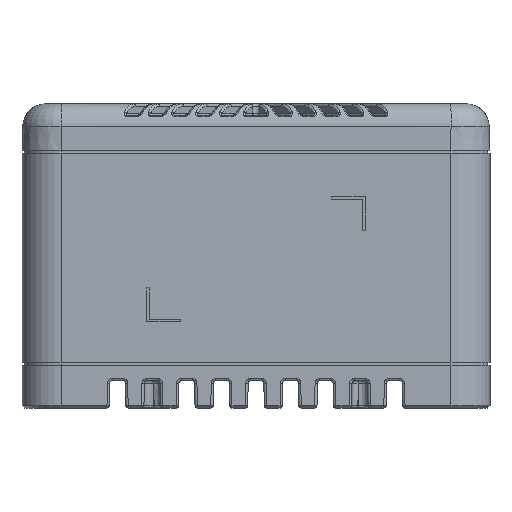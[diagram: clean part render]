
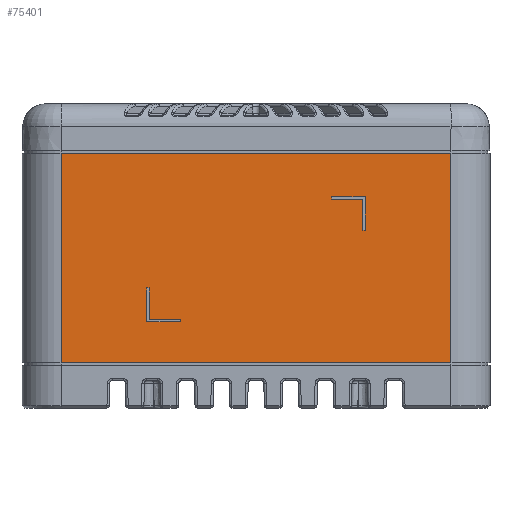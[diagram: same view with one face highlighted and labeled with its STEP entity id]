
A CAD part, left-side view. The second image highlights one B-rep face of the part: STEP entity #75401.
In plain terms, the highlighted planar face has unit normal (-1, 0, 0).
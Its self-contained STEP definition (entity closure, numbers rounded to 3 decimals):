
#811 = VERTEX_POINT ( 'NONE', #42274 ) ;
#1516 = LINE ( 'NONE', #84538, #74324 ) ;
#2090 = VECTOR ( 'NONE', #84399, 1000. ) ;
#3626 = CARTESIAN_POINT ( 'NONE',  ( -54., 25., 27.5 ) ) ;
#4190 = EDGE_CURVE ( 'NONE', #92370, #52066, #96544, .T. ) ;
#5146 = ORIENTED_EDGE ( 'NONE', *, *, #46457, .F. ) ;
#5613 = EDGE_CURVE ( 'NONE', #16453, #23665, #84009, .T. ) ;
#7245 = EDGE_CURVE ( 'NONE', #58472, #72931, #33263, .T. ) ;
#8660 = LINE ( 'NONE', #38768, #11218 ) ;
#11218 = VECTOR ( 'NONE', #90223, 1000. ) ;
#11325 = FACE_BOUND ( 'NONE', #15268, .T. ) ;
#11660 = VECTOR ( 'NONE', #25333, 1000. ) ;
#12910 = ORIENTED_EDGE ( 'NONE', *, *, #62445, .F. ) ;
#13155 = EDGE_CURVE ( 'NONE', #45273, #84296, #65281, .T. ) ;
#14381 = CARTESIAN_POINT ( 'NONE',  ( -54., 25., 5.6 ) ) ;
#15148 = ORIENTED_EDGE ( 'NONE', *, *, #15595, .F. ) ;
#15229 = ORIENTED_EDGE ( 'NONE', *, *, #38802, .F. ) ;
#15268 = EDGE_LOOP ( 'NONE', ( #77667, #68437, #81362, #44696, #73542, #12910 ) ) ;
#15384 = VERTEX_POINT ( 'NONE', #84614 ) ;
#15427 = VECTOR ( 'NONE', #32511, 1000. ) ;
#15595 = EDGE_CURVE ( 'NONE', #15384, #77270, #73235, .T. ) ;
#15705 = LINE ( 'NONE', #56544, #59917 ) ;
#15827 = CARTESIAN_POINT ( 'NONE',  ( -54., 25., 5.9 ) ) ;
#16453 = VERTEX_POINT ( 'NONE', #96687 ) ;
#18786 = ORIENTED_EDGE ( 'NONE', *, *, #62101, .F. ) ;
#19007 = DIRECTION ( 'NONE',  ( 0., 0., 1. ) ) ;
#20423 = CARTESIAN_POINT ( 'NONE',  ( -54., 25., 27.2 ) ) ;
#23665 = VERTEX_POINT ( 'NONE', #44185 ) ;
#24470 = VECTOR ( 'NONE', #26408, 1000. ) ;
#25333 = DIRECTION ( 'NONE',  ( 0., 0., -1. ) ) ;
#25987 = EDGE_CURVE ( 'NONE', #30957, #15384, #45574, .T. ) ;
#26319 = LINE ( 'NONE', #47083, #11660 ) ;
#26408 = DIRECTION ( 'NONE',  ( 0., 0., -1. ) ) ;
#26991 = EDGE_CURVE ( 'NONE', #35231, #30957, #1516, .T. ) ;
#27464 = LINE ( 'NONE', #49710, #15427 ) ;
#27846 = DIRECTION ( 'NONE',  ( 0., -1., 0. ) ) ;
#30558 = CARTESIAN_POINT ( 'NONE',  ( -54., -25., 27.2 ) ) ;
#30957 = VERTEX_POINT ( 'NONE', #47554 ) ;
#30977 = VECTOR ( 'NONE', #89179, 1000. ) ;
#32511 = DIRECTION ( 'NONE',  ( 0., -1., 0. ) ) ;
#33263 = LINE ( 'NONE', #86194, #89832 ) ;
#33401 = CARTESIAN_POINT ( 'NONE',  ( -54., 9.7, 27.5 ) ) ;
#34001 = FACE_BOUND ( 'NONE', #54544, .T. ) ;
#34482 = CARTESIAN_POINT ( 'NONE',  ( -54., -14., 21.6 ) ) ;
#35231 = VERTEX_POINT ( 'NONE', #63240 ) ;
#38768 = CARTESIAN_POINT ( 'NONE',  ( -54., 25., 21.3 ) ) ;
#38802 = EDGE_CURVE ( 'NONE', #39418, #45273, #27464, .T. ) ;
#39094 = CARTESIAN_POINT ( 'NONE',  ( -54., 14., 27.5 ) ) ;
#39418 = VERTEX_POINT ( 'NONE', #20423 ) ;
#42274 = CARTESIAN_POINT ( 'NONE',  ( -54., -13.7, 21.3 ) ) ;
#42385 = AXIS2_PLACEMENT_3D ( 'NONE', #71650, #55306, #85438 ) ;
#44108 = CARTESIAN_POINT ( 'NONE',  ( -54., 25., 17.3 ) ) ;
#44185 = CARTESIAN_POINT ( 'NONE',  ( -54., 13.7, 5.9 ) ) ;
#44547 = VECTOR ( 'NONE', #49997, 1000. ) ;
#44696 = ORIENTED_EDGE ( 'NONE', *, *, #55761, .F. ) ;
#45273 = VERTEX_POINT ( 'NONE', #30558 ) ;
#45574 = LINE ( 'NONE', #39094, #66267 ) ;
#46457 = EDGE_CURVE ( 'NONE', #84296, #74370, #83899, .T. ) ;
#46696 = CARTESIAN_POINT ( 'NONE',  ( -54., -13.7, 17.3 ) ) ;
#47083 = CARTESIAN_POINT ( 'NONE',  ( -54., -9.7, 27.5 ) ) ;
#47554 = CARTESIAN_POINT ( 'NONE',  ( -54., 14., 9.9 ) ) ;
#47611 = DIRECTION ( 'NONE',  ( 0., 0., -1. ) ) ;
#47983 = EDGE_CURVE ( 'NONE', #23665, #35231, #80782, .T. ) ;
#48386 = FACE_OUTER_BOUND ( 'NONE', #89424, .T. ) ;
#49009 = CARTESIAN_POINT ( 'NONE',  ( -54., -25., 27.5 ) ) ;
#49710 = CARTESIAN_POINT ( 'NONE',  ( -54., 25., 27.2 ) ) ;
#49997 = DIRECTION ( 'NONE',  ( 0., 0., -1. ) ) ;
#52032 = ORIENTED_EDGE ( 'NONE', *, *, #71356, .T. ) ;
#52066 = VERTEX_POINT ( 'NONE', #85976 ) ;
#53908 = CARTESIAN_POINT ( 'NONE',  ( -54., 13.7, 27.5 ) ) ;
#54544 = EDGE_LOOP ( 'NONE', ( #70185, #93870, #18786, #15148, #73580, #65372 ) ) ;
#54720 = LINE ( 'NONE', #33401, #62301 ) ;
#55038 = LINE ( 'NONE', #3626, #64007 ) ;
#55059 = DIRECTION ( 'NONE',  ( 0., 1., 0. ) ) ;
#55306 = DIRECTION ( 'NONE',  ( 1., 0., 0. ) ) ;
#55761 = EDGE_CURVE ( 'NONE', #52066, #58472, #15705, .T. ) ;
#56544 = CARTESIAN_POINT ( 'NONE',  ( -54., -14., 27.5 ) ) ;
#58472 = VERTEX_POINT ( 'NONE', #34482 ) ;
#59917 = VECTOR ( 'NONE', #19007, 1000. ) ;
#60611 = CARTESIAN_POINT ( 'NONE',  ( -54., -25., 0.3 ) ) ;
#62101 = EDGE_CURVE ( 'NONE', #77270, #16453, #54720, .T. ) ;
#62301 = VECTOR ( 'NONE', #84861, 1000. ) ;
#62445 = EDGE_CURVE ( 'NONE', #811, #92370, #96092, .T. ) ;
#62536 = VERTEX_POINT ( 'NONE', #83180 ) ;
#63240 = CARTESIAN_POINT ( 'NONE',  ( -54., 13.7, 9.9 ) ) ;
#64007 = VECTOR ( 'NONE', #47611, 1000. ) ;
#65281 = LINE ( 'NONE', #49009, #44547 ) ;
#65372 = ORIENTED_EDGE ( 'NONE', *, *, #26991, .F. ) ;
#66267 = VECTOR ( 'NONE', #92014, 1000. ) ;
#67481 = EDGE_CURVE ( 'NONE', #62536, #811, #8660, .T. ) ;
#68437 = ORIENTED_EDGE ( 'NONE', *, *, #93846, .F. ) ;
#70185 = ORIENTED_EDGE ( 'NONE', *, *, #47983, .F. ) ;
#71356 = EDGE_CURVE ( 'NONE', #39418, #74370, #55038, .T. ) ;
#71650 = CARTESIAN_POINT ( 'NONE',  ( -54., 25., 27.5 ) ) ;
#72931 = VERTEX_POINT ( 'NONE', #95328 ) ;
#73235 = LINE ( 'NONE', #14381, #75022 ) ;
#73542 = ORIENTED_EDGE ( 'NONE', *, *, #4190, .F. ) ;
#73580 = ORIENTED_EDGE ( 'NONE', *, *, #25987, .F. ) ;
#74324 = VECTOR ( 'NONE', #92946, 1000. ) ;
#74370 = VERTEX_POINT ( 'NONE', #83504 ) ;
#74441 = VECTOR ( 'NONE', #74692, 1000. ) ;
#74684 = DIRECTION ( 'NONE',  ( 0., -1., 0. ) ) ;
#74692 = DIRECTION ( 'NONE',  ( 0., 1., 0. ) ) ;
#75022 = VECTOR ( 'NONE', #74684, 1000. ) ;
#75401 = ADVANCED_FACE ( 'NONE', ( #34001, #11325, #48386 ), #93372, .F. ) ;
#77270 = VERTEX_POINT ( 'NONE', #89682 ) ;
#77667 = ORIENTED_EDGE ( 'NONE', *, *, #67481, .F. ) ;
#80782 = LINE ( 'NONE', #53908, #30977 ) ;
#81362 = ORIENTED_EDGE ( 'NONE', *, *, #7245, .F. ) ;
#83180 = CARTESIAN_POINT ( 'NONE',  ( -54., -9.7, 21.3 ) ) ;
#83504 = CARTESIAN_POINT ( 'NONE',  ( -54., 25., 0.3 ) ) ;
#83899 = LINE ( 'NONE', #94127, #2090 ) ;
#84009 = LINE ( 'NONE', #15827, #74441 ) ;
#84296 = VERTEX_POINT ( 'NONE', #60611 ) ;
#84399 = DIRECTION ( 'NONE',  ( 0., 1., 0. ) ) ;
#84538 = CARTESIAN_POINT ( 'NONE',  ( -54., 25., 9.9 ) ) ;
#84614 = CARTESIAN_POINT ( 'NONE',  ( -54., 14., 5.6 ) ) ;
#84861 = DIRECTION ( 'NONE',  ( 0., 0., 1. ) ) ;
#85438 = DIRECTION ( 'NONE',  ( 0., 1., 0. ) ) ;
#85976 = CARTESIAN_POINT ( 'NONE',  ( -54., -14., 17.3 ) ) ;
#86194 = CARTESIAN_POINT ( 'NONE',  ( -54., 25., 21.6 ) ) ;
#86779 = VECTOR ( 'NONE', #27846, 1000. ) ;
#89179 = DIRECTION ( 'NONE',  ( 0., 0., 1. ) ) ;
#89424 = EDGE_LOOP ( 'NONE', ( #5146, #93182, #15229, #52032 ) ) ;
#89682 = CARTESIAN_POINT ( 'NONE',  ( -54., 9.7, 5.6 ) ) ;
#89832 = VECTOR ( 'NONE', #55059, 1000. ) ;
#90223 = DIRECTION ( 'NONE',  ( 0., -1., 0. ) ) ;
#92014 = DIRECTION ( 'NONE',  ( 0., 0., -1. ) ) ;
#92370 = VERTEX_POINT ( 'NONE', #46696 ) ;
#92946 = DIRECTION ( 'NONE',  ( 0., 1., 0. ) ) ;
#93182 = ORIENTED_EDGE ( 'NONE', *, *, #13155, .F. ) ;
#93372 = PLANE ( 'NONE',  #42385 ) ;
#93846 = EDGE_CURVE ( 'NONE', #72931, #62536, #26319, .T. ) ;
#93870 = ORIENTED_EDGE ( 'NONE', *, *, #5613, .F. ) ;
#94121 = CARTESIAN_POINT ( 'NONE',  ( -54., -13.7, 27.5 ) ) ;
#94127 = CARTESIAN_POINT ( 'NONE',  ( -54., -25., 0.3 ) ) ;
#95328 = CARTESIAN_POINT ( 'NONE',  ( -54., -9.7, 21.6 ) ) ;
#96092 = LINE ( 'NONE', #94121, #24470 ) ;
#96544 = LINE ( 'NONE', #44108, #86779 ) ;
#96687 = CARTESIAN_POINT ( 'NONE',  ( -54., 9.7, 5.9 ) ) ;
